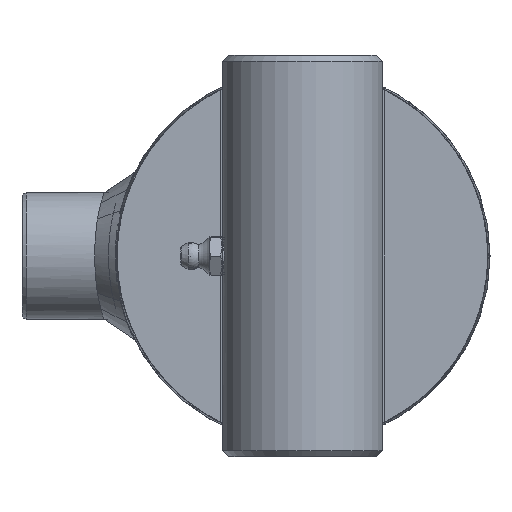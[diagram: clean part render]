
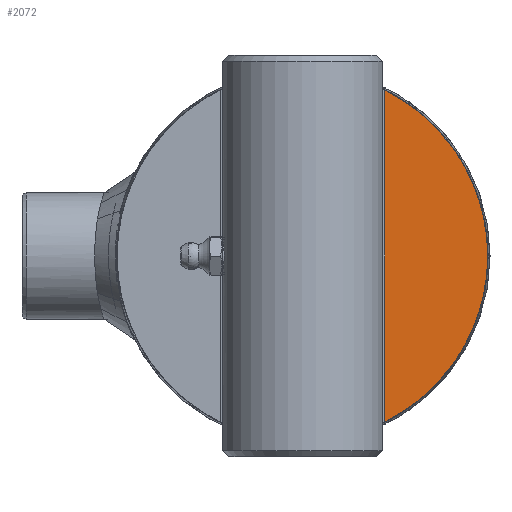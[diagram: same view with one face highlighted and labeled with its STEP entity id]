
A CAD part, left-side view. The second image highlights one B-rep face of the part: STEP entity #2072.
In plain terms, the highlighted planar face has unit normal (-1, 0, 0) as drawn and (0, 1, 0) by its records, which use the part's own axes.
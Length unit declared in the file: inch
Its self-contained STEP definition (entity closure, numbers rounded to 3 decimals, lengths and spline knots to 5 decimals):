
#112=PLANE('',#2268);
#182=LINE('',#5128,#226);
#226=VECTOR('',#2637,3.105);
#365=CIRCLE('',#2269,1.73228);
#612=FACE_OUTER_BOUND('',#810,.T.);
#810=EDGE_LOOP('',(#1629,#1630));
#1106=VERTEX_POINT('',#5111);
#1107=VERTEX_POINT('',#5127);
#1312=EDGE_CURVE('',#1107,#1106,#182,.T.);
#1317=EDGE_CURVE('',#1107,#1106,#365,.T.);
#1629=ORIENTED_EDGE('',*,*,#1312,.T.);
#1630=ORIENTED_EDGE('',*,*,#1317,.F.);
#2072=ADVANCED_FACE('',(#612),#112,.T.);
#2268=AXIS2_PLACEMENT_3D('',#5178,#2641,#2642);
#2269=AXIS2_PLACEMENT_3D('',#5179,#2643,#2644);
#2637=DIRECTION('',(1.,0.,0.));
#2641=DIRECTION('center_axis',(0.,1.,0.));
#2642=DIRECTION('ref_axis',(0.,0.,1.));
#2643=DIRECTION('center_axis',(0.,-1.,0.));
#2644=DIRECTION('ref_axis',(1.,0.,0.));
#5111=CARTESIAN_POINT('',(1.5525,0.,-0.76847));
#5127=CARTESIAN_POINT('',(-1.5525,0.,-0.76847));
#5128=CARTESIAN_POINT('',(0.,0.,-0.76847));
#5178=CARTESIAN_POINT('Origin',(0.86614,0.,0.));
#5179=CARTESIAN_POINT('Origin',(0.,0.,
0.));
